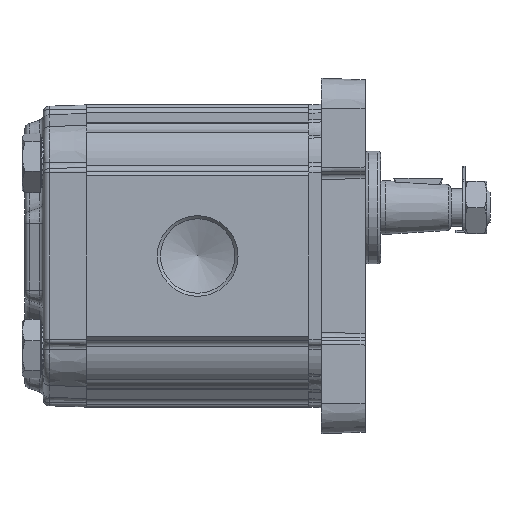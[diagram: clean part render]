
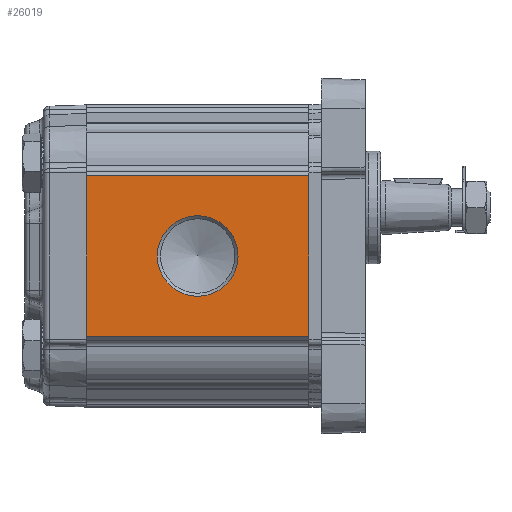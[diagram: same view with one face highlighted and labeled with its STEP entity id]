
A CAD part, left-side view. The second image highlights one B-rep face of the part: STEP entity #26019.
In plain terms, the highlighted planar face has unit normal (-1, 0, 0).
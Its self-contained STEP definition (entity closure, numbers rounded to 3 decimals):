
#984=PLANE('',#27286);
#1523=CIRCLE('',#27287,13.059);
#3577=ORIENTED_EDGE('',*,*,#9182,.T.);
#3578=ORIENTED_EDGE('',*,*,#9183,.F.);
#3579=ORIENTED_EDGE('',*,*,#9181,.F.);
#3580=ORIENTED_EDGE('',*,*,#9184,.T.);
#3581=ORIENTED_EDGE('',*,*,#9185,.T.);
#9181=EDGE_CURVE('',#12095,#12094,#13910,.T.);
#9182=EDGE_CURVE('',#12096,#12096,#1523,.F.);
#9183=EDGE_CURVE('',#12094,#12097,#13911,.T.);
#9184=EDGE_CURVE('',#12095,#12098,#13912,.T.);
#9185=EDGE_CURVE('',#12098,#12097,#13913,.T.);
#12094=VERTEX_POINT('',#36291);
#12095=VERTEX_POINT('',#36293);
#12096=VERTEX_POINT('',#36297);
#12097=VERTEX_POINT('',#36299);
#12098=VERTEX_POINT('',#36301);
#13910=LINE('',#36294,#15219);
#13911=LINE('',#36298,#15220);
#13912=LINE('',#36300,#15221);
#13913=LINE('',#36302,#15222);
#15219=VECTOR('',#30194,1000.);
#15220=VECTOR('',#30199,1000.);
#15221=VECTOR('',#30200,1000.);
#15222=VECTOR('',#30201,1000.);
#16666=EDGE_LOOP('',(#3577));
#16667=EDGE_LOOP('',(#3578,#3579,#3580,#3581));
#17883=FACE_BOUND('',#16666,.T.);
#17884=FACE_BOUND('',#16667,.T.);
#26019=ADVANCED_FACE('',(#17883,#17884),#984,.T.);
#27286=AXIS2_PLACEMENT_3D('',#36295,#30195,#30196);
#27287=AXIS2_PLACEMENT_3D('',#36296,#30197,#30198);
#30194=DIRECTION('',(0.,-1.,0.));
#30195=DIRECTION('',(-1.,0.,0.));
#30196=DIRECTION('',(0.,0.,1.));
#30197=DIRECTION('',(-1.,0.,0.));
#30198=DIRECTION('',(0.,0.,1.));
#30199=DIRECTION('',(0.,0.,-1.));
#30200=DIRECTION('',(0.,0.,-1.));
#30201=DIRECTION('',(0.,-1.,0.));
#36291=CARTESIAN_POINT('',(-45.,0.,25.912));
#36293=CARTESIAN_POINT('',(-45.,72.,25.912));
#36294=CARTESIAN_POINT('',(-45.,72.,25.912));
#36295=CARTESIAN_POINT('',(-45.,72.,25.912));
#36296=CARTESIAN_POINT('',(-45.,36.,0.));
#36297=CARTESIAN_POINT('',(-45.,36.,13.059));
#36298=CARTESIAN_POINT('',(-45.,0.,25.912));
#36299=CARTESIAN_POINT('',(-45.,0.,-25.912));
#36300=CARTESIAN_POINT('',(-45.,72.,25.912));
#36301=CARTESIAN_POINT('',(-45.,72.,-25.912));
#36302=CARTESIAN_POINT('',(-45.,72.,-25.912));
